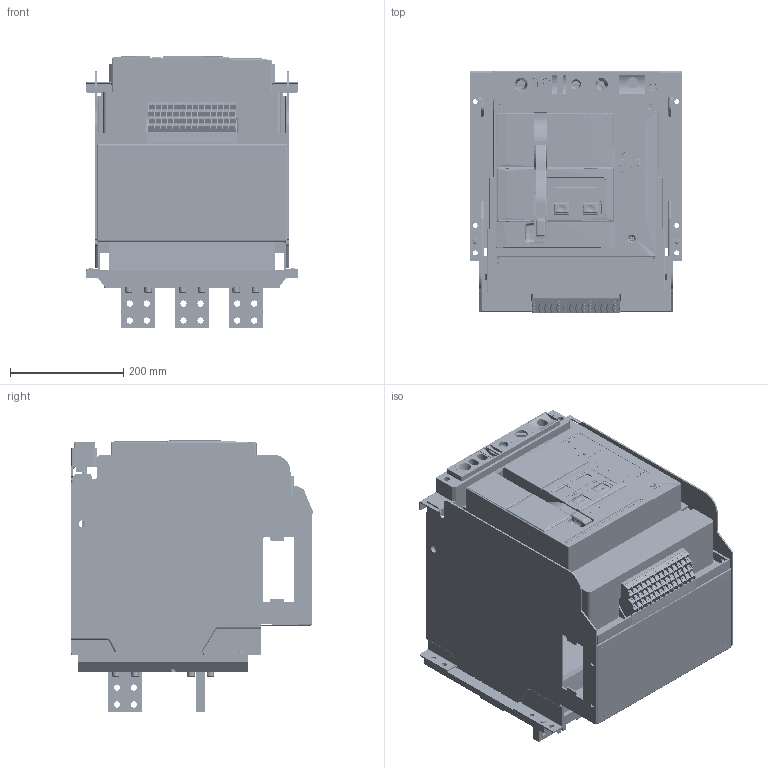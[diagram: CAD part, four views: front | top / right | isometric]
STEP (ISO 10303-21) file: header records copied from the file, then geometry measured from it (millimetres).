
FILE_DESCRIPTION((''),'2;1');
FILE_NAME('NA-2500H-3P-D-630A-1600A-HV_ASM','2021-11-06T10:59:31',('lcc'),(''),'CREO PARAMETRIC BY PTC INC, 2020044','CREO PARAMETRIC BY PTC INC, 2020044','');
FILE_SCHEMA(('CONFIG_CONTROL_DESIGN','SHAPE_APPEARANCE_LAYERS_GROUPS'));
Products named in the file (27): 8050A0306129T; 8050A0306120T; 8050A0306121T; 8ZTD_300_532; 8ZTD_300_531; 25-3P-DIBAN02; 8ZTD-060-206; 8ZTD-253-779; 8ZTD-253-780; 8ZTD-253-782; 8ZTD-227-004; 8ZTD-235-048; 8-040-432; 8-004-030; 8-320-094; 8-860-KZQ; 8ZTD-253-577; 8ZTD-321-090; 8ZTD-064-137; 8ZTD-024-837T; 8ZTD-860-699; 5ZTD-558-695-2500_ASM; 8580A0412106; GBT93_8; GBT70_1_M8X20; Q_NKJ_0200012_2_M8X20_ASM; NA-2500H-3P-D-630A-1600A-HV_ASM
Assembly tree (67 placements, depth 3):
  NA-2500H-3P-D-630A-1600A-HV_ASM
    8050A0306129T
    8050A0306120T
    8050A0306121T
    8ZTD_300_532
    8ZTD_300_531
    25-3P-DIBAN02
    8ZTD-060-206
    8ZTD-253-779
    8ZTD-253-780
    8ZTD-253-782
    8ZTD-227-004
    8ZTD-235-048
    8-040-432
    8-004-030
    8-320-094
    8-860-KZQ
    8ZTD-253-577
    8ZTD-321-090
    5ZTD-558-695-2500_ASM
      8ZTD-064-137
      8ZTD-024-837T  x14
      8ZTD-860-699
    8580A0412106  x6
    Q_NKJ_0200012_2_M8X20_ASM  x24
      GBT93_8
      GBT70_1_M8X20
Bounding box: 375 x 428.53 x 479.68 mm (x, y, z)
Volume: 11251017 mm3; surface area: 2772203.4 mm2
Topology: 92 solids, 145 shells, 9752 faces, 25772 edges, 16638 vertices
Faces by surface type: plane 6632, cylinder 1880, cone 407, torus 329, extrusion 248, bspline 219, sphere 36, revolution 1
Entity records: 279830 total; most frequent: CARTESIAN_POINT 64632, ORIENTED_EDGE 35821, DIRECTION 32465, EDGE_CURVE 17972, PRESENTATION_STYLE_ASSIGNMENT 15384, STYLED_ITEM 15102, CURVE_STYLE 15047, VECTOR 13414
